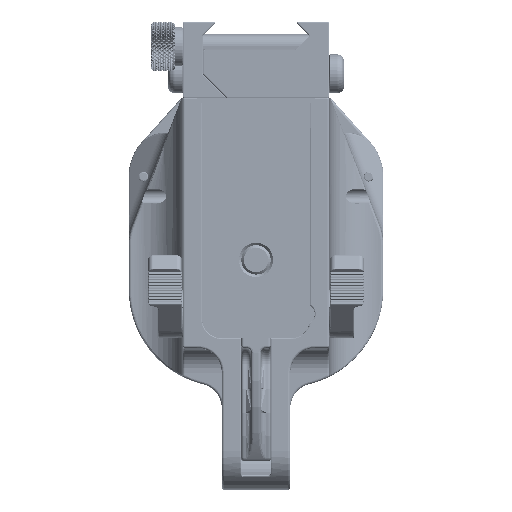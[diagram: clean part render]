
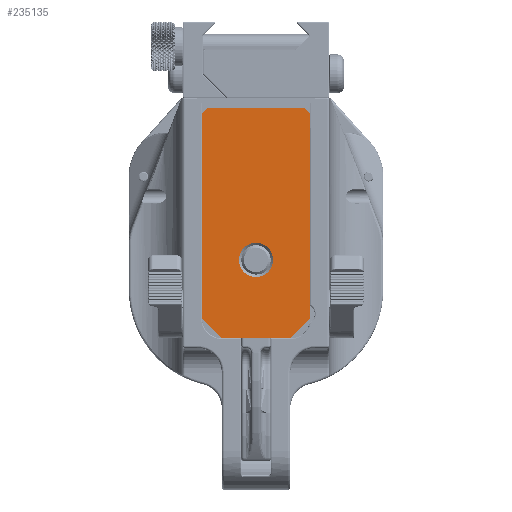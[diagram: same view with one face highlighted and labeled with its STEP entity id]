
A CAD part, front view. The second image highlights one B-rep face of the part: STEP entity #235135.
In plain terms, the highlighted planar face has unit normal (0, -1, 0).
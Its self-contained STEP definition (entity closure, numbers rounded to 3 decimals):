
#19887=CIRCLE('',#271273,3.5);
#74425=ORIENTED_EDGE('',*,*,#115413,.T.);
#74426=ORIENTED_EDGE('',*,*,#115408,.F.);
#74427=ORIENTED_EDGE('',*,*,#115414,.T.);
#74428=ORIENTED_EDGE('',*,*,#115415,.F.);
#74429=ORIENTED_EDGE('',*,*,#115416,.T.);
#74430=ORIENTED_EDGE('',*,*,#115410,.F.);
#74431=ORIENTED_EDGE('',*,*,#115417,.T.);
#74432=ORIENTED_EDGE('',*,*,#115418,.F.);
#74433=ORIENTED_EDGE('',*,*,#115419,.T.);
#115408=EDGE_CURVE('',#140036,#140037,#161999,.T.);
#115410=EDGE_CURVE('',#140038,#140039,#162001,.T.);
#115413=EDGE_CURVE('',#140040,#140040,#19887,.T.);
#115414=EDGE_CURVE('',#140036,#140041,#162004,.F.);
#115415=EDGE_CURVE('',#140042,#140041,#162005,.T.);
#115416=EDGE_CURVE('',#140042,#140039,#162006,.F.);
#115417=EDGE_CURVE('',#140038,#140043,#162007,.F.);
#115418=EDGE_CURVE('',#140044,#140043,#162008,.T.);
#115419=EDGE_CURVE('',#140044,#140037,#162009,.F.);
#140036=VERTEX_POINT('',#438704);
#140037=VERTEX_POINT('',#438706);
#140038=VERTEX_POINT('',#438710);
#140039=VERTEX_POINT('',#438711);
#140040=VERTEX_POINT('',#438716);
#140041=VERTEX_POINT('',#438718);
#140042=VERTEX_POINT('',#438720);
#140043=VERTEX_POINT('',#438723);
#140044=VERTEX_POINT('',#438725);
#161999=LINE('',#438705,#181043);
#162001=LINE('',#438709,#181045);
#162004=LINE('',#438717,#181048);
#162005=LINE('',#438719,#181049);
#162006=LINE('',#438721,#181050);
#162007=LINE('',#438722,#181051);
#162008=LINE('',#438724,#181052);
#162009=LINE('',#438726,#181053);
#181043=VECTOR('',#328209,1000.);
#181045=VECTOR('',#328213,1000.);
#181048=VECTOR('',#328220,1000.);
#181049=VECTOR('',#328221,1000.);
#181050=VECTOR('',#328222,1000.);
#181051=VECTOR('',#328223,1000.);
#181052=VECTOR('',#328224,1000.);
#181053=VECTOR('',#328225,1000.);
#195320=EDGE_LOOP('',(#74425));
#195321=EDGE_LOOP('',(#74426,#74427,#74428,#74429,#74430,#74431,#74432,
#74433));
#211905=FACE_BOUND('',#195320,.T.);
#211906=FACE_BOUND('',#195321,.T.);
#223562=PLANE('',#271272);
#235135=ADVANCED_FACE('',(#211905,#211906),#223562,.F.);
#271272=AXIS2_PLACEMENT_3D('',#438714,#328216,#328217);
#271273=AXIS2_PLACEMENT_3D('',#438715,#328218,#328219);
#328209=DIRECTION('',(0.,0.,1.));
#328213=DIRECTION('',(0.,0.,-1.));
#328216=DIRECTION('',(0.,1.,0.));
#328217=DIRECTION('',(0.,0.,1.));
#328218=DIRECTION('',(0.,1.,0.));
#328219=DIRECTION('',(0.,0.,1.));
#328220=DIRECTION('',(-0.707,0.,0.707));
#328221=DIRECTION('',(-1.,0.,0.));
#328222=DIRECTION('',(-0.707,0.,-0.707));
#328223=DIRECTION('',(0.707,0.,-0.707));
#328224=DIRECTION('',(1.,0.,0.));
#328225=DIRECTION('',(0.707,0.,0.707));
#438704=CARTESIAN_POINT('',(-11.,-1.5,-18.5));
#438705=CARTESIAN_POINT('',(-11.,-1.5,-24.5));
#438706=CARTESIAN_POINT('',(-11.,-1.5,23.5));
#438709=CARTESIAN_POINT('',(11.,-1.5,24.5));
#438710=CARTESIAN_POINT('',(11.,-1.5,23.5));
#438711=CARTESIAN_POINT('',(11.,-1.5,-18.5));
#438714=CARTESIAN_POINT('',(0.,-1.5,0.));
#438715=CARTESIAN_POINT('',(0.,-1.5,-6.5));
#438716=CARTESIAN_POINT('',(0.,-1.5,-3.));
#438717=CARTESIAN_POINT('',(-11.,-1.5,-18.5));
#438718=CARTESIAN_POINT('',(-7.,-1.5,-22.5));
#438719=CARTESIAN_POINT('',(0.,-1.5,-22.5));
#438720=CARTESIAN_POINT('',(7.,-1.5,-22.5));
#438721=CARTESIAN_POINT('',(11.,-1.5,-18.5));
#438722=CARTESIAN_POINT('',(10.,-1.5,24.5));
#438723=CARTESIAN_POINT('',(10.,-1.5,24.5));
#438724=CARTESIAN_POINT('',(-11.,-1.5,24.5));
#438725=CARTESIAN_POINT('',(-10.,-1.5,24.5));
#438726=CARTESIAN_POINT('',(-11.,-1.5,23.5));
